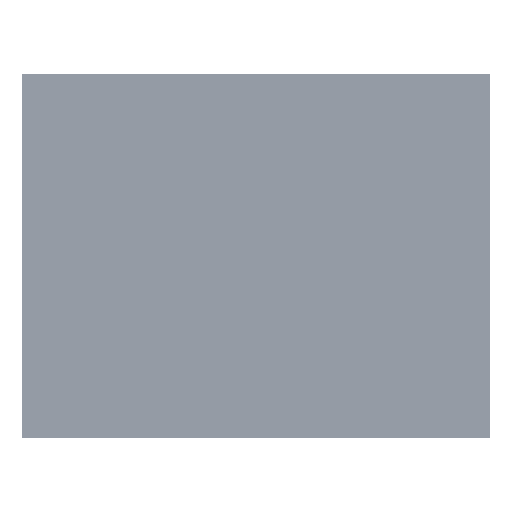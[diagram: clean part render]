
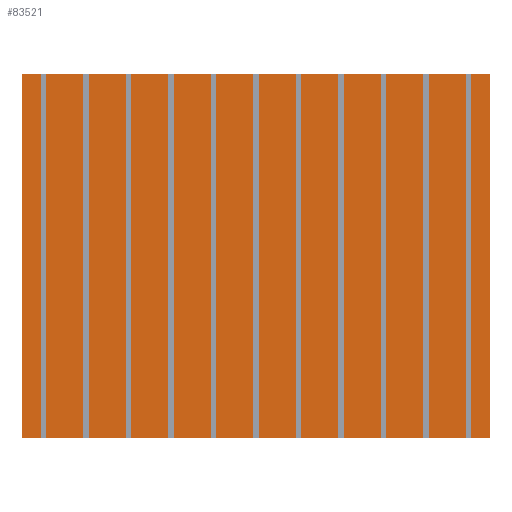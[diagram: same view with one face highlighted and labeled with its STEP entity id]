
A CAD part, front view. The second image highlights one B-rep face of the part: STEP entity #83521.
In plain terms, the highlighted planar face has unit normal (0, -1, 0) as drawn and (0, 0, 1) by its records, which use the part's own axes.
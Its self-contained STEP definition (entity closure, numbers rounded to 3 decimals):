
#12456=FACE_OUTER_BOUND('',#17251,.T.);
#17251=EDGE_LOOP('',(#56802,#56803,#56804,#56805));
#22144=LINE('',#120644,#29422);
#22148=LINE('',#120652,#29426);
#22151=LINE('',#120658,#29429);
#22154=LINE('',#120663,#29432);
#29422=VECTOR('',#97016,10.);
#29426=VECTOR('',#97022,10.);
#29429=VECTOR('',#97027,10.);
#29432=VECTOR('',#97032,10.);
#36700=VERTEX_POINT('',#120642);
#36701=VERTEX_POINT('',#120643);
#36704=VERTEX_POINT('',#120651);
#36706=VERTEX_POINT('',#120657);
#44387=EDGE_CURVE('',#36700,#36701,#22144,.T.);
#44391=EDGE_CURVE('',#36701,#36704,#22148,.T.);
#44394=EDGE_CURVE('',#36704,#36706,#22151,.T.);
#44397=EDGE_CURVE('',#36706,#36700,#22154,.T.);
#56802=ORIENTED_EDGE('',*,*,#44387,.F.);
#56803=ORIENTED_EDGE('',*,*,#44397,.F.);
#56804=ORIENTED_EDGE('',*,*,#44394,.F.);
#56805=ORIENTED_EDGE('',*,*,#44391,.F.);
#81588=PLANE('',#88839);
#83521=ADVANCED_FACE('',(#12456),#81588,.T.);
#88839=AXIS2_PLACEMENT_3D('',#120665,#97034,#97035);
#97016=DIRECTION('',(0.,1.,0.));
#97022=DIRECTION('',(1.,0.,0.));
#97027=DIRECTION('',(0.,-1.,0.));
#97032=DIRECTION('',(-1.,0.,0.));
#97034=DIRECTION('center_axis',(0.,0.,1.));
#97035=DIRECTION('ref_axis',(1.,0.,0.));
#120642=CARTESIAN_POINT('',(-6911.,0.,3.));
#120643=CARTESIAN_POINT('',(-6911.,5387.,3.));
#120644=CARTESIAN_POINT('',(-6911.,0.,3.));
#120651=CARTESIAN_POINT('',(0.,5387.,3.));
#120652=CARTESIAN_POINT('',(-6911.,5387.,3.));
#120657=CARTESIAN_POINT('',(0.,0.,3.));
#120658=CARTESIAN_POINT('',(0.,5387.,3.));
#120663=CARTESIAN_POINT('',(0.,0.,3.));
#120665=CARTESIAN_POINT('Origin',(-3455.5,2693.5,3.));
